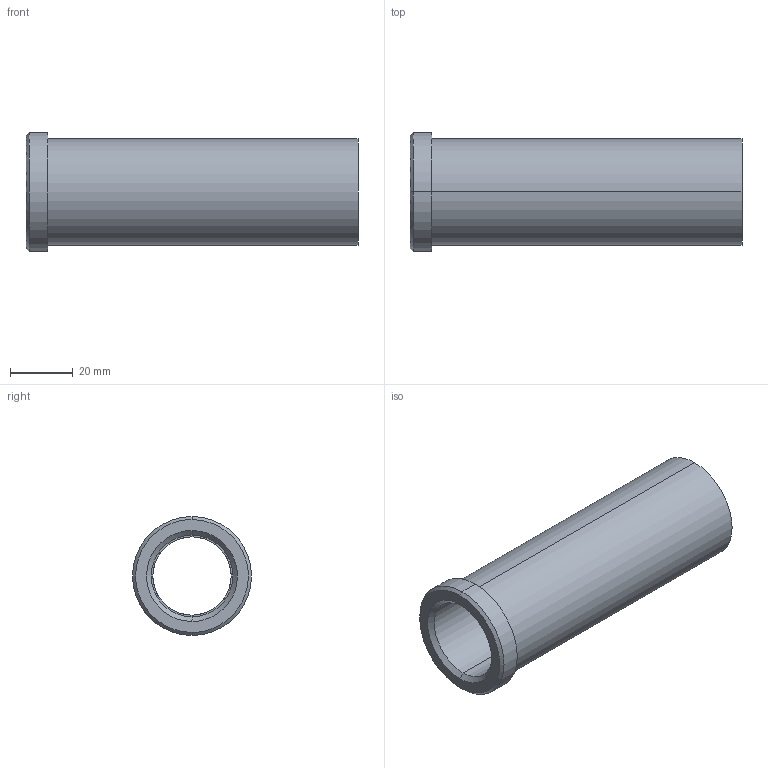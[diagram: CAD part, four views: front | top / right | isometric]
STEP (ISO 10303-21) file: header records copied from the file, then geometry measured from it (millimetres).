
FILE_DESCRIPTION(('CATIA V5 STEP Exchange'),'2;1');
FILE_NAME('C:\Users\Utente\Desktop\IO LAVORO\3D X SITO CF\X SITO\PLASTICA\353\353-25X106.stp','2021-05-12T18:33:26+00:00',('none'),('none'),'CATIA Version 5 Release 20 GA (IN-10)','CATIA V5 STEP AP203','none');
FILE_SCHEMA(('CONFIG_CONTROL_DESIGN'));
Length unit declared in the file: millimetre
Products named in the file (1): 353-25X106
Bounding box: 106 x 38 x 38 mm (x, y, z)
Volume: 43323.3 mm3; surface area: 20992.2 mm2
Topology: 1 solids, 1 shells, 18 faces, 58 edges, 44 vertices
Faces by surface type: cylinder 8, plane 4, cone 4, torus 2
Entity records: 840 total; most frequent: CARTESIAN_POINT 289, ORIENTED_EDGE 116, DIRECTION 82, EDGE_CURVE 58, AXIS2_PLACEMENT_3D 53, VERTEX_POINT 44, CIRCLE 34, EDGE_LOOP 22
